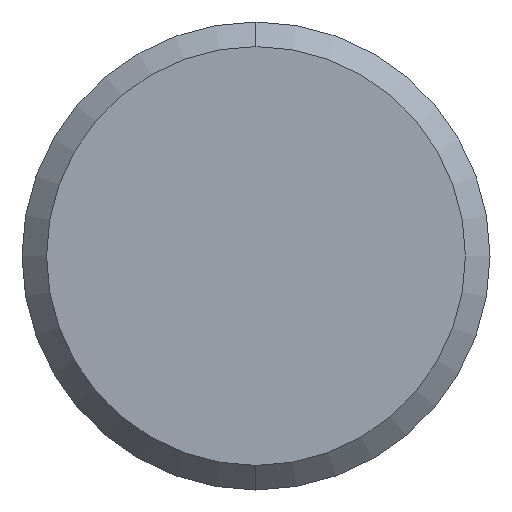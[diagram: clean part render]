
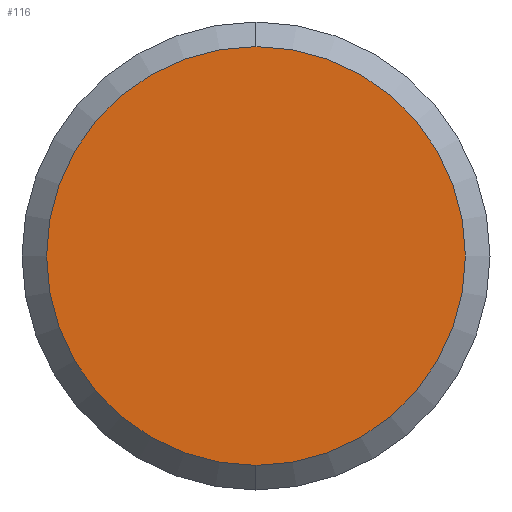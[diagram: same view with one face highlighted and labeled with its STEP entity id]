
A CAD part, left-side view. The second image highlights one B-rep face of the part: STEP entity #116.
In plain terms, the highlighted planar face has unit normal (-1, 0, 0).
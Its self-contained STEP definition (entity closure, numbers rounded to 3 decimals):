
#4 = AXIS2_PLACEMENT_3D ( 'NONE', #286, #259, #95 ) ;
#37 = CIRCLE ( 'NONE', #4, 8.525 ) ;
#44 = CARTESIAN_POINT ( 'NONE',  ( -150., 0., 0. ) ) ;
#55 = VERTEX_POINT ( 'NONE', #335 ) ;
#59 = CARTESIAN_POINT ( 'NONE',  ( -150., 0., -8.525 ) ) ;
#60 = DIRECTION ( 'NONE',  ( 0., 0., -1. ) ) ;
#84 = CARTESIAN_POINT ( 'NONE',  ( -150., 9.525, 0. ) ) ;
#95 = DIRECTION ( 'NONE',  ( 0., 0., -1. ) ) ;
#116 = ADVANCED_FACE ( 'NONE', ( #243 ), #161, .F. ) ;
#130 = AXIS2_PLACEMENT_3D ( 'NONE', #44, #223, #307 ) ;
#161 = PLANE ( 'NONE',  #269 ) ;
#175 = VERTEX_POINT ( 'NONE', #59 ) ;
#223 = DIRECTION ( 'NONE',  ( -1., 0., 0. ) ) ;
#231 = ORIENTED_EDGE ( 'NONE', *, *, #244, .T. ) ;
#241 = DIRECTION ( 'NONE',  ( 1., 0., 0. ) ) ;
#243 = FACE_OUTER_BOUND ( 'NONE', #351, .T. ) ;
#244 = EDGE_CURVE ( 'NONE', #55, #175, #37, .T. ) ;
#259 = DIRECTION ( 'NONE',  ( -1., 0., 0. ) ) ;
#260 = ORIENTED_EDGE ( 'NONE', *, *, #268, .T. ) ;
#268 = EDGE_CURVE ( 'NONE', #175, #55, #301, .T. ) ;
#269 = AXIS2_PLACEMENT_3D ( 'NONE', #84, #241, #60 ) ;
#286 = CARTESIAN_POINT ( 'NONE',  ( -150., 0., 0. ) ) ;
#301 = CIRCLE ( 'NONE', #130, 8.525 ) ;
#307 = DIRECTION ( 'NONE',  ( 0., 0., -1. ) ) ;
#335 = CARTESIAN_POINT ( 'NONE',  ( -150., 0., 8.525 ) ) ;
#351 = EDGE_LOOP ( 'NONE', ( #260, #231 ) ) ;
